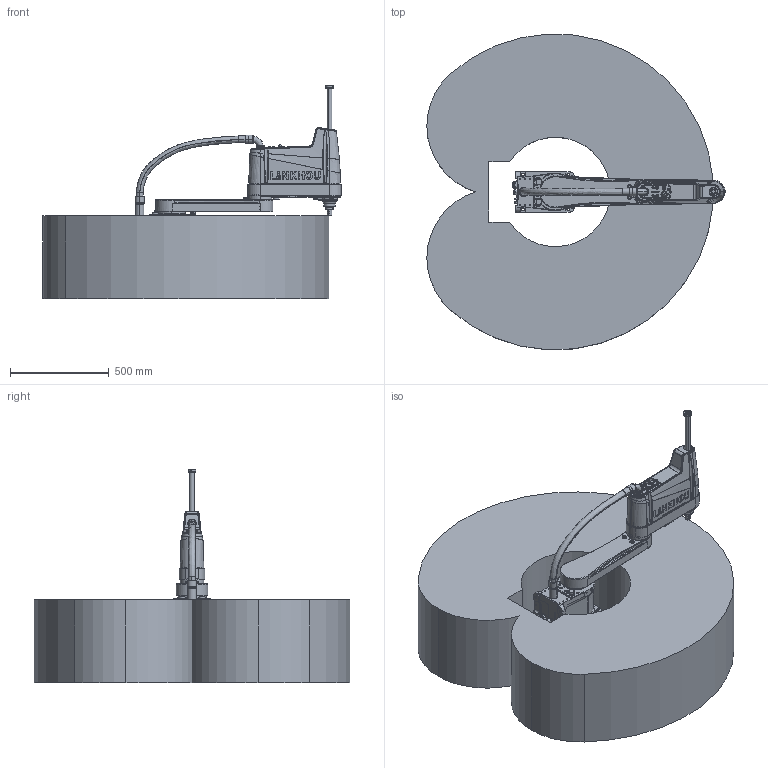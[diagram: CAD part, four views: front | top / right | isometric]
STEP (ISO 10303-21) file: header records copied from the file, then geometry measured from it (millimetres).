
FILE_DESCRIPTION (( 'STEP AP203' ), '1' );
FILE_NAME ('TM10A-R800Z42ÓÐlogo2017.step', '2023-12-22T14:17:50', ( '' ), ( '' ), 'SwSTEP 2.0', 'SolidWorks 2017', '' );
FILE_SCHEMA (( 'CONFIG_CONTROL_DESIGN' ));
Length unit declared in the file: millimetre
Products named in the file (7): ｸｴｼ TM10A-R800Z42ﾔﾋｶｯｷｶﾎｧﾍｼ^TM10A-R800Z42ﾓﾐlogo2017; TM10A-R800Z42ÓÐlogo2017; ｸｴｼ 25ﾋｿｸﾋ660ﾊﾄ｣ﾍｼ^TM10A-R800Z42ﾓﾐlogo2017; ｸｴｼ TM10A-R800ｴﾛ^TM10A-R800Z42ﾓﾐlogo2017; ｸｴｼ TM10Aﾐ｡ｱﾛﾓﾐlogo^TM10A-R800Z42ﾓﾐlogo2017; ｸｴｼ ｸｴｼ ｸｴｼ TM10A-ｵﾗﾗTM10A-R800Z42ﾓﾐlogo2017; ¸´¼þ TM10A-R800¹Ü^TM10A-R800Z42ÓÐlogo2017
Assembly tree (6 placements, depth 2):
  TM10A-R800Z42ÓÐlogo2017
    ｸｴｼ ｸｴｼ ｸｴｼ TM10A-ｵﾗﾗTM10A-R800Z42ﾓﾐlogo2017
    ｸｴｼ TM10A-R800ｴﾛ^TM10A-R800Z42ﾓﾐlogo2017
    ｸｴｼ TM10Aﾐ｡ｱﾛﾓﾐlogo^TM10A-R800Z42ﾓﾐlogo2017
    ｸｴｼ 25ﾋｿｸﾋ660ﾊﾄ｣ﾍｼ^TM10A-R800Z42ﾓﾐlogo2017
    ¸´¼þ TM10A-R800¹Ü^TM10A-R800Z42ÓÐlogo2017
    ｸｴｼ TM10A-R800Z42ﾔﾋｶｯｷｶﾎｧﾍｼ^TM10A-R800Z42ﾓﾐlogo2017
Bounding box: 1510.11 x 1597.97 x 1080 mm (x, y, z)
Volume: 692764816.1 mm3; surface area: 8206364.9 mm2
Topology: 42 solids, 50 shells, 3263 faces, 8270 edges, 5221 vertices
Faces by surface type: plane 999, bspline 852, cylinder 836, cone 575, torus 1
Entity records: 192813 total; most frequent: CARTESIAN_POINT 122825, ORIENTED_EDGE 16326, DIRECTION 11377, EDGE_CURVE 8163, VERTEX_POINT 5221, AXIS2_PLACEMENT_3D 4275, EDGE_LOOP 3614, ADVANCED_FACE 3263
